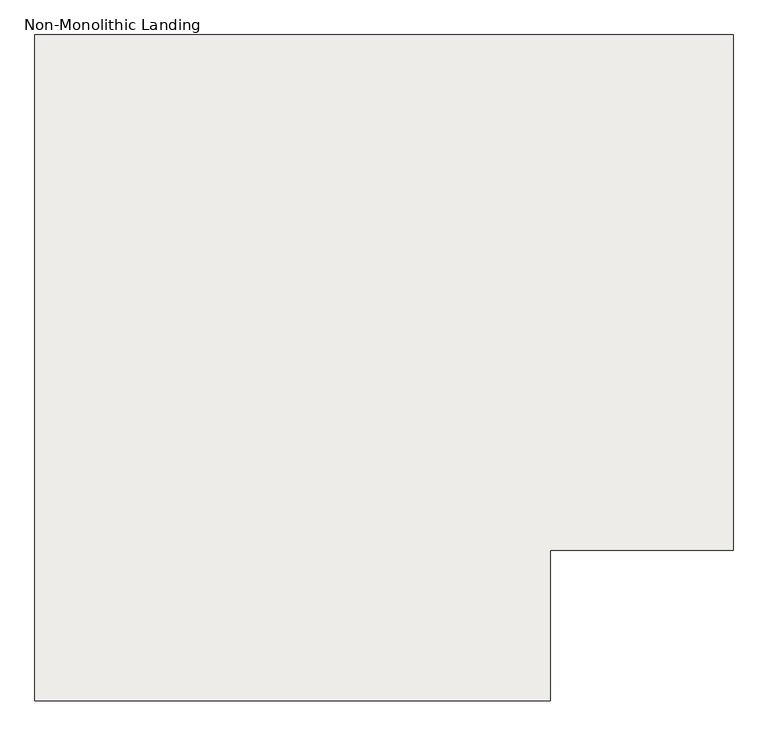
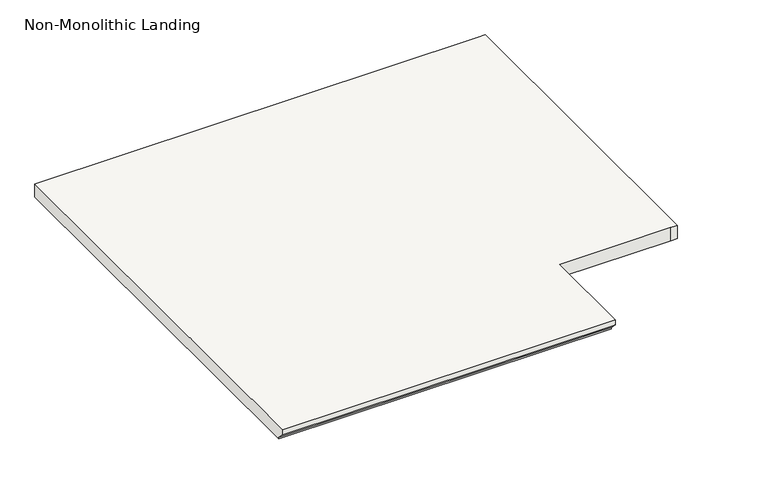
"""IFC4 building model written with IfcOpenShell, lengths in millimetres: slab geometry, Non-Monolithic Landing."""

from ifc_helpers import new_model, si_unit, origin, place, context, project, spatial, faceted_brep, source, transform, mapped, element, save


def non_monolithic_landing_b97fd22c(model_context):
    return source(origin(), model_context, "Body", "Brep", [
        faceted_brep([(-4473.217382, 4914.1483604, 827.6166667), (-4473.217382, 4914.1483604, 846.6666667), (-5692.417382, 4914.1483604, 846.6666667), (-5692.417382, 4914.1483604, 827.6166667), (-4473.217382, 4939.5483604, 802.2166667), (-5692.417382, 4939.5483604, 802.2166667), (-4473.217382, 5269.7483604, 846.6666667), (-4066.817382, 5269.7483604, 846.6666667), (-4041.417382, 5269.7483604, 846.6666667), (-4041.417382, 6488.9483604, 846.6666667), (-4066.817382, 6488.9483604, 846.6666667), (-5692.417382, 6488.9483604, 846.6666667), (-4473.217382, 4939.5483604, 795.8666667), (-5692.417382, 4939.5483604, 795.8666667), (-5692.417382, 6488.9483604, 795.8666667), (-4066.817382, 6488.9483604, 795.8666667), (-4041.417382, 6488.9483604, 795.8666667), (-4041.417382, 5269.7483604, 795.8666667), (-4066.817382, 5269.7483604, 795.8666667), (-4473.217382, 5269.7483604, 795.8666667)], [[[0, 1, 2, 3]], [[4, 0, 3, 5]], [[6, 7, 8, 9, 10, 11, 2, 1]], [[12, 13, 14, 15, 16, 17, 18, 19]], [[13, 12, 4, 5]], [[6, 1, 0, 4, 12, 19]], [[7, 6, 19, 18]], [[8, 7, 18, 17]], [[9, 8, 17, 16]], [[10, 9, 16, 15]], [[11, 10, 15, 14]], [[2, 11, 14, 13, 5, 3]]]),
    ])


if __name__ == "__main__":
    model = new_model("IFC4")
    model_context = context("Model", 3, world=origin())
    ifc_project = project(units=[si_unit("LENGTHUNIT", "METRE", prefix="MILLI")], contexts=[model_context])
    site = spatial("IfcSite", under=ifc_project)
    building = spatial("IfcBuilding", under=site)
    placement = place(None, origin())
    non_monolithic_landing_shape = non_monolithic_landing_b97fd22c(model_context)
    element("IfcSlab", 1, ObjectType="Non-Monolithic Landing", at=placement, inside=building, context=model_context, shape_type="MappedRepresentation", body=[
        mapped(non_monolithic_landing_shape, transform((0.0, 0.0, 0.0), x_axis=(1.0, 0.0, 0.0), y_axis=(0.0, 1.0, 0.0), z_axis=(0.0, 0.0, 1.0))),
    ])
    save(model, "model.ifc")
